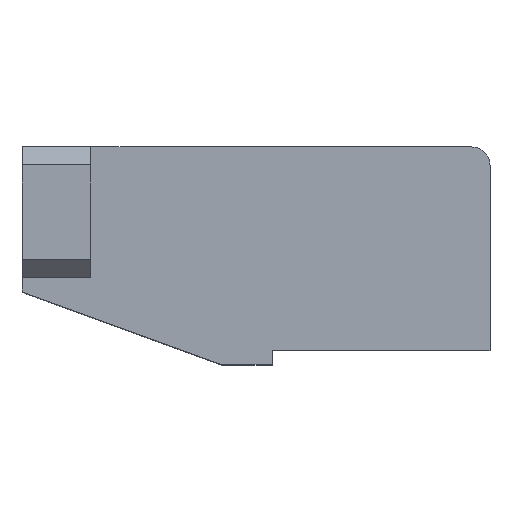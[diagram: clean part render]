
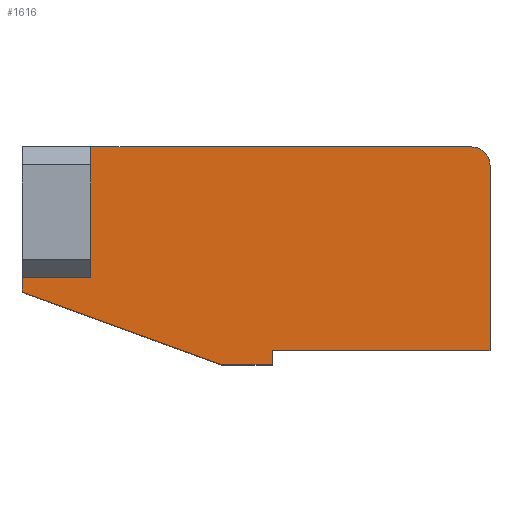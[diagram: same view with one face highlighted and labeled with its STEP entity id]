
A CAD part, top view. The second image highlights one B-rep face of the part: STEP entity #1616.
In plain terms, the highlighted planar face has unit normal (0, 0, 1).
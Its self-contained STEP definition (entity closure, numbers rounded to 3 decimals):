
#23 = AXIS2_PLACEMENT_3D ( 'NONE', #1404, #1188, #997 ) ;
#29 = VECTOR ( 'NONE', #92, 1000. ) ;
#77 = ORIENTED_EDGE ( 'NONE', *, *, #869, .T. ) ;
#92 = DIRECTION ( 'NONE',  ( -1., 0., 0. ) ) ;
#93 = VERTEX_POINT ( 'NONE', #902 ) ;
#148 = VERTEX_POINT ( 'NONE', #1116 ) ;
#167 = CARTESIAN_POINT ( 'NONE',  ( -22.75, 14., 20. ) ) ;
#174 = CARTESIAN_POINT ( 'NONE',  ( 2.25, -16., 20. ) ) ;
#183 = ORIENTED_EDGE ( 'NONE', *, *, #1163, .T. ) ;
#203 = CARTESIAN_POINT ( 'NONE',  ( 2.25, -16., 20. ) ) ;
#241 = LINE ( 'NONE', #1324, #1225 ) ;
#243 = CARTESIAN_POINT ( 'NONE',  ( -22.75, 14., 20. ) ) ;
#384 = FACE_OUTER_BOUND ( 'NONE', #597, .T. ) ;
#410 = LINE ( 'NONE', #243, #424 ) ;
#415 = VECTOR ( 'NONE', #625, 1000. ) ;
#424 = VECTOR ( 'NONE', #1459, 1000. ) ;
#427 = DIRECTION ( 'NONE',  ( 0., -1., 0. ) ) ;
#439 = EDGE_CURVE ( 'NONE', #1626, #93, #590, .T. ) ;
#468 = CARTESIAN_POINT ( 'NONE',  ( 29.75, 11.5, 20. ) ) ;
#491 = DIRECTION ( 'NONE',  ( 0.94, -0.342, 0. ) ) ;
#515 = CARTESIAN_POINT ( 'NONE',  ( -22.75, 14., 20. ) ) ;
#567 = PLANE ( 'NONE',  #23 ) ;
#574 = VECTOR ( 'NONE', #1170, 1000. ) ;
#584 = CARTESIAN_POINT ( 'NONE',  ( -32.25, 14., 20. ) ) ;
#590 = LINE ( 'NONE', #839, #1146 ) ;
#593 = ORIENTED_EDGE ( 'NONE', *, *, #1422, .F. ) ;
#597 = EDGE_LOOP ( 'NONE', ( #892, #1009, #593, #761, #183, #1402, #950, #77, #1135, #909, #1031 ) ) ;
#603 = DIRECTION ( 'NONE',  ( 1., 0., 0. ) ) ;
#625 = DIRECTION ( 'NONE',  ( 1., 0., 0. ) ) ;
#632 = CIRCLE ( 'NONE', #1084, 2.5 ) ;
#654 = VERTEX_POINT ( 'NONE', #203 ) ;
#656 = VECTOR ( 'NONE', #427, 1000. ) ;
#742 = LINE ( 'NONE', #174, #1517 ) ;
#749 = CARTESIAN_POINT ( 'NONE',  ( -22.75, -4., 20. ) ) ;
#761 = ORIENTED_EDGE ( 'NONE', *, *, #944, .T. ) ;
#771 = CARTESIAN_POINT ( 'NONE',  ( 29.75, 14., 20. ) ) ;
#778 = CARTESIAN_POINT ( 'NONE',  ( -32.25, 14., 20. ) ) ;
#779 = LINE ( 'NONE', #904, #1565 ) ;
#782 = CARTESIAN_POINT ( 'NONE',  ( 32.25, 11.5, 20. ) ) ;
#792 = LINE ( 'NONE', #1202, #415 ) ;
#803 = VERTEX_POINT ( 'NONE', #1562 ) ;
#831 = EDGE_CURVE ( 'NONE', #1489, #803, #410, .T. ) ;
#835 = LINE ( 'NONE', #778, #574 ) ;
#839 = CARTESIAN_POINT ( 'NONE',  ( -22.75, -4., 20. ) ) ;
#869 = EDGE_CURVE ( 'NONE', #1270, #1489, #835, .T. ) ;
#882 = EDGE_CURVE ( 'NONE', #803, #1626, #1317, .T. ) ;
#892 = ORIENTED_EDGE ( 'NONE', *, *, #949, .T. ) ;
#902 = CARTESIAN_POINT ( 'NONE',  ( -32.25, -4., 20. ) ) ;
#904 = CARTESIAN_POINT ( 'NONE',  ( 32.25, 14., 20. ) ) ;
#909 = ORIENTED_EDGE ( 'NONE', *, *, #882, .T. ) ;
#936 = DIRECTION ( 'NONE',  ( -1., 0., 0. ) ) ;
#944 = EDGE_CURVE ( 'NONE', #654, #1201, #742, .T. ) ;
#949 = EDGE_CURVE ( 'NONE', #93, #1256, #1401, .T. ) ;
#950 = ORIENTED_EDGE ( 'NONE', *, *, #1391, .T. ) ;
#991 = CARTESIAN_POINT ( 'NONE',  ( 32.25, -14., 20. ) ) ;
#997 = DIRECTION ( 'NONE',  ( 1., 0., 0. ) ) ;
#1008 = LINE ( 'NONE', #1612, #29 ) ;
#1009 = ORIENTED_EDGE ( 'NONE', *, *, #1288, .T. ) ;
#1031 = ORIENTED_EDGE ( 'NONE', *, *, #439, .T. ) ;
#1084 = AXIS2_PLACEMENT_3D ( 'NONE', #468, #1481, #603 ) ;
#1115 = VECTOR ( 'NONE', #1191, 1000. ) ;
#1116 = CARTESIAN_POINT ( 'NONE',  ( -4.775, -16., 20. ) ) ;
#1135 = ORIENTED_EDGE ( 'NONE', *, *, #831, .T. ) ;
#1146 = VECTOR ( 'NONE', #936, 1000. ) ;
#1163 = EDGE_CURVE ( 'NONE', #1201, #1415, #792, .T. ) ;
#1170 = DIRECTION ( 'NONE',  ( -1., 0., 0. ) ) ;
#1188 = DIRECTION ( 'NONE',  ( 0., 0., 1. ) ) ;
#1191 = DIRECTION ( 'NONE',  ( 0., -1., 0. ) ) ;
#1201 = VERTEX_POINT ( 'NONE', #1640 ) ;
#1202 = CARTESIAN_POINT ( 'NONE',  ( -32.25, -14., 20. ) ) ;
#1215 = VERTEX_POINT ( 'NONE', #782 ) ;
#1225 = VECTOR ( 'NONE', #491, 1000. ) ;
#1256 = VERTEX_POINT ( 'NONE', #1334 ) ;
#1270 = VERTEX_POINT ( 'NONE', #771 ) ;
#1271 = DIRECTION ( 'NONE',  ( 0., 1., 0. ) ) ;
#1288 = EDGE_CURVE ( 'NONE', #1256, #148, #241, .T. ) ;
#1317 = LINE ( 'NONE', #515, #656 ) ;
#1324 = CARTESIAN_POINT ( 'NONE',  ( -5.701, -15.663, 20. ) ) ;
#1334 = CARTESIAN_POINT ( 'NONE',  ( -32.25, -6., 20. ) ) ;
#1391 = EDGE_CURVE ( 'NONE', #1215, #1270, #632, .T. ) ;
#1401 = LINE ( 'NONE', #584, #1115 ) ;
#1402 = ORIENTED_EDGE ( 'NONE', *, *, #1501, .T. ) ;
#1404 = CARTESIAN_POINT ( 'NONE',  ( 0., 0., 20. ) ) ;
#1415 = VERTEX_POINT ( 'NONE', #991 ) ;
#1422 = EDGE_CURVE ( 'NONE', #654, #148, #1008, .T. ) ;
#1459 = DIRECTION ( 'NONE',  ( 0., -1., 0. ) ) ;
#1481 = DIRECTION ( 'NONE',  ( 0., 0., 1. ) ) ;
#1489 = VERTEX_POINT ( 'NONE', #167 ) ;
#1501 = EDGE_CURVE ( 'NONE', #1415, #1215, #779, .T. ) ;
#1517 = VECTOR ( 'NONE', #1588, 1000. ) ;
#1562 = CARTESIAN_POINT ( 'NONE',  ( -22.75, 6., 20. ) ) ;
#1565 = VECTOR ( 'NONE', #1271, 1000. ) ;
#1588 = DIRECTION ( 'NONE',  ( 0., 1., 0. ) ) ;
#1612 = CARTESIAN_POINT ( 'NONE',  ( -32.25, -16., 20. ) ) ;
#1616 = ADVANCED_FACE ( 'NONE', ( #384 ), #567, .T. ) ;
#1626 = VERTEX_POINT ( 'NONE', #749 ) ;
#1640 = CARTESIAN_POINT ( 'NONE',  ( 2.25, -14., 20. ) ) ;
